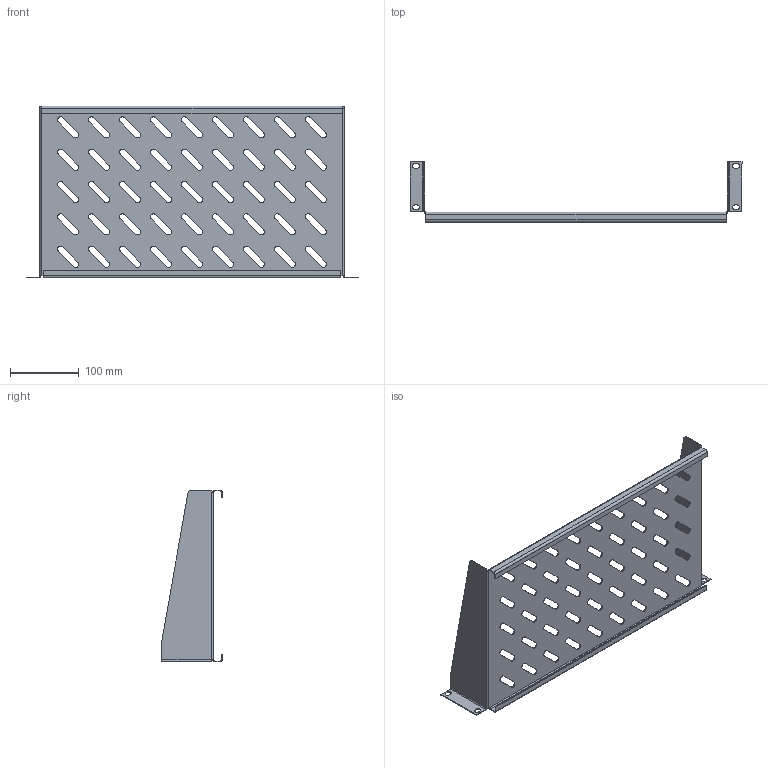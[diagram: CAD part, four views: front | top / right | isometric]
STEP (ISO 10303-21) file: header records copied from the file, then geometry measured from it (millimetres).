
FILE_DESCRIPTION (( 'STEP AP203' ), '1' );
FILE_NAME ('SH 48.25 I2 Ïîëêà ñ êðåïëåíèåì â îäíîé ïëîñêîñòè.STEP', '2013-01-12T10:04:13', ( 'System' ), ( '' ), 'SwSTEP 2.0', 'SolidWorks 2012', '' );
FILE_SCHEMA (( 'CONFIG_CONTROL_DESIGN' ));
Length unit declared in the file: millimetre
Products named in the file (1): SH 48.25 I2 Ïîëêà ñ êðåïëåíèåì â îäíîé ïëîñêîñòè
Bounding box: 482.6 x 88 x 250 mm (x, y, z)
Volume: 199729 mm3; surface area: 293666.4 mm2
Topology: 1 solids, 1 shells, 323 faces, 899 edges, 578 vertices
Faces by surface type: cylinder 163, plane 160
Entity records: 10640 total; most frequent: DIRECTION 1873, CARTESIAN_POINT 1801, ORIENTED_EDGE 1798, EDGE_CURVE 899, AXIS2_PLACEMENT_3D 650, VERTEX_POINT 578, VECTOR 573, LINE 573
